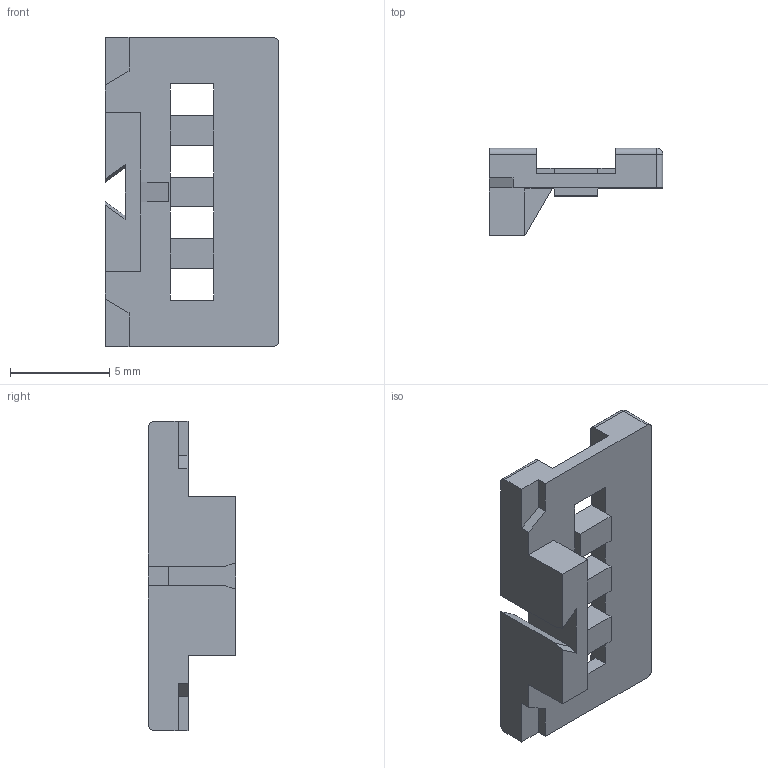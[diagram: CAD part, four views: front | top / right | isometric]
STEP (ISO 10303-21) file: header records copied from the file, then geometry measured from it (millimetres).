
FILE_DESCRIPTION(/* description */ (''),/* implementation_level */ '2;1');
FILE_NAME(/* name */ 'C:\Desktop\FIERA\097.00.stp',/* time_stamp */ '2015-03-06T12:34:11+01:00',/* author */ ('marco'),/* organization */ (''),/* preprocessor_version */ 'ST-DEVELOPER v15.6',/* originating_system */ 'Autodesk Inventor 2015',/* authorisation */ '');
FILE_SCHEMA (('AUTOMOTIVE_DESIGN { 1 0 10303 214 3 1 1 }'));
Length unit declared in the file: millimetre
Products named in the file (1): EF00922 porta targhetta 060.72 per 95-97-96
Bounding box: 8.75 x 4.4 x 15.6 mm (x, y, z)
Volume: 185.4 mm3; surface area: 463.7 mm2
Topology: 1 solids, 1 shells, 80 faces, 223 edges, 140 vertices
Faces by surface type: plane 71, cylinder 7, sphere 2
Entity records: 2533 total; most frequent: ORIENTED_EDGE 446, CARTESIAN_POINT 444, DIRECTION 399, EDGE_CURVE 223, LINE 209, VECTOR 209, VERTEX_POINT 140, AXIS2_PLACEMENT_3D 95
